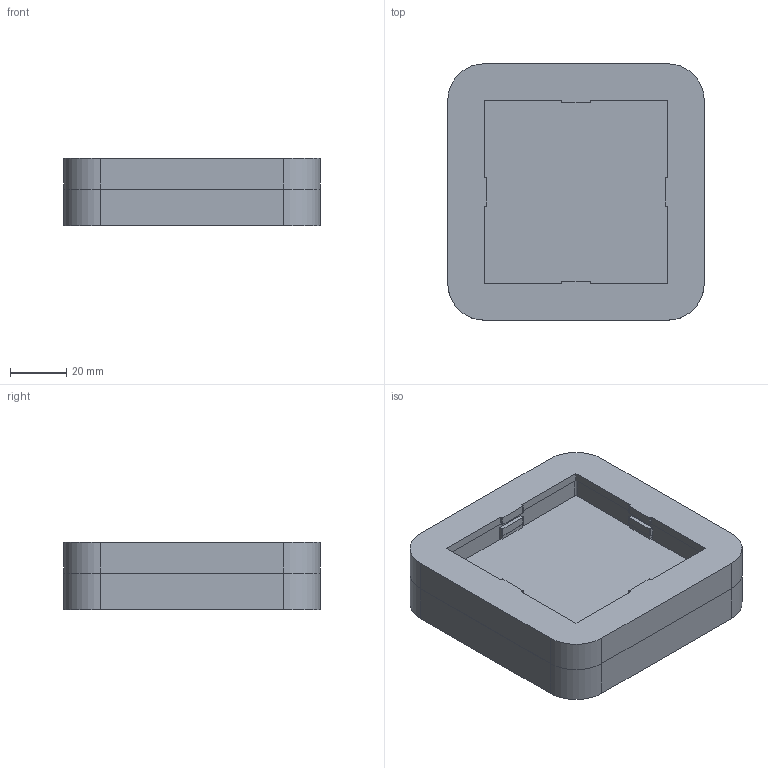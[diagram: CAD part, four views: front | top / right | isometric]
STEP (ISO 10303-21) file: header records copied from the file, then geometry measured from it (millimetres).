
FILE_DESCRIPTION(('Open CASCADE Model'),'2;1');
FILE_NAME('Open CASCADE Shape Model','2026-09-20T05:09:19',('Author'),( 'Open CASCADE'),'Open CASCADE STEP processor 8.0','Open CASCADE 8.0' ,'Unknown');
FILE_SCHEMA(('AP242_MANAGED_MODEL_BASED_3D_ENGINEERING_MIM_LF {1 0 10303 442 1 1 4 }' ));
Length unit declared in the file: millimetre
Products named in the file (23): case_bottom; case_top; case_plate; case_gasket_gasket_1_lower; case_gasket_gasket_1_upper; case_gasket_gasket_2_lower; case_gasket_gasket_2_upper; case_gasket_gasket_3_lower; case_gasket_gasket_3_upper; case_gasket_gasket_4_lower; case_gasket_gasket_4_upper; case_screws_case_mount_1; case_screws_case_mount_3; case_screws_case_mount_4; case_screws_case_mount_5; case_screws_case_mount_6; case_screws_case_mount_7; case_screws_case_mount_8; case_pcb; case_components_native_U1; case_components_native_U2; case_components_native_U3; case_components_native_U4
Bounding box: 91 x 91 x 24 mm (x, y, z)
Volume: 112717.6 mm3; surface area: 61393.5 mm2
Topology: 23 solids, 23 shells, 420 faces, 1019 edges, 676 vertices
Faces by surface type: plane 281, cylinder 139
Full cylindrical faces by diameter (mm): 2.5 x7, 3 x7, 3.4 x7, 5.5 x7, 6.2 x7
Entity records: 26204 total; most frequent: CARTESIAN_POINT 4700, DIRECTION 4086, LINE 2501, VECTOR 2501, ORIENTED_EDGE 2038, PCURVE 2038, DEFINITIONAL_REPRESENTATION 2038, EDGE_CURVE 1019
